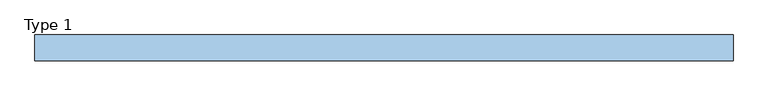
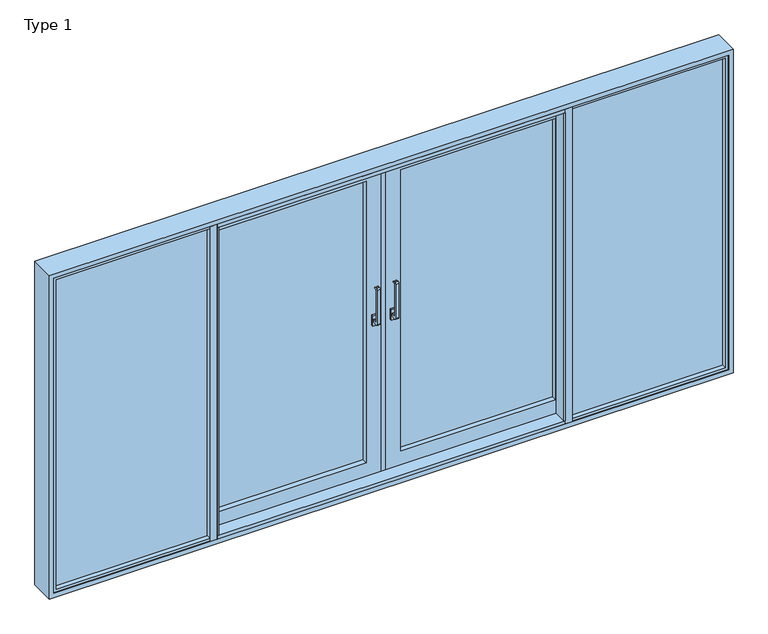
"""IFC4 building model written with IfcOpenShell, lengths in millimetres: window geometry, ETEM_ES70_Quadruple_Lift_Sliding_HT_NI : Type 1."""

from ifc_helpers import new_model, si_unit, point, frame, frame_2d, origin, place, context, project, spatial, polyline, circle_curve, trimmed, segment, composite_curve, outline, extrude, faceted_brep, source, transform, mapped, element, save


def type_1_4933372a(model_context):
    return source(origin(), model_context, "Body", "SolidModel", [
        extrude(outline(composite_curve([segment(polyline([(20.5992454, 1090.0), (-10.9744394, 1090.0)]), True, "CONTINUOUS"), segment(trimmed(circle_curve(frame_2d((-10.9744394, 1098.4263152)), 8.4263152), [point((-10.9744394, 1090.0))], [point((-19.4007546, 1098.4263152))], False, "CARTESIAN"), True, "CONTINUOUS"), segment(polyline([(-19.4007546, 1098.4263152), (-19.4007546, 1331.5736848)]), True, "CONTINUOUS"), segment(trimmed(circle_curve(frame_2d((-10.9744394, 1331.5736848)), 8.4263152), [point((-19.4007546, 1331.5736848))], [point((-10.9744394, 1340.0))], False, "CARTESIAN"), True, "CONTINUOUS"), segment(polyline([(-10.9744394, 1340.0), (0.5992454, 1340.0)]), True, "CONTINUOUS"), segment(trimmed(circle_curve(frame_2d((0.5992454, 1335.0)), 5.0), [point((0.5992454, 1340.0))], [point((0.5992454, 1330.0))], False, "CARTESIAN"), True, "CONTINUOUS"), segment(polyline([(0.5992454, 1330.0), (-5.8652207, 1330.0)]), True, "CONTINUOUS"), segment(trimmed(circle_curve(frame_2d((-5.8652207, 1326.4644661)), 3.5355339), [point((-5.8652207, 1330.0))], [point((-9.4007546, 1326.4644661))], True, "CARTESIAN"), True, "CONTINUOUS"), segment(polyline([(-9.4007546, 1326.4644661), (-9.4007546, 1113.5355339)]), True, "CONTINUOUS"), segment(trimmed(circle_curve(frame_2d((-5.8652207, 1113.5355339)), 3.5355339), [point((-9.4007546, 1113.5355339))], [point((-5.8652207, 1110.0))], True, "CARTESIAN"), True, "CONTINUOUS"), segment(polyline([(-5.8652207, 1110.0), (20.5992454, 1110.0), (20.5992454, 1090.0)]), True, "CONTINUOUS")], self_intersect=False)), frame((-69.4936823, 0.0, 0.0), z_axis=(1.0, 0.0, 0.0), x_axis=(0.0, 1.0, 0.0)), (0.0, 0.0, 1.0), 20.0),
        extrude(outline(polyline([(-74.4936823, 20.5992454), (-74.4936823, 33.5992454), (-44.4936823, 33.5992454), (-44.4936823, 20.5992454), (-74.4936823, 20.5992454)])), frame((0.0, 0.0, 1065.0), z_axis=(0.0, 0.0, 1.0), x_axis=(1.0, 0.0, 0.0)), (0.0, 0.0, 1.0), 70.0),
        extrude(outline(composite_curve([segment(polyline([(20.5992454, 1090.0), (-10.9744394, 1090.0)]), True, "CONTINUOUS"), segment(trimmed(circle_curve(frame_2d((-10.9744394, 1098.4263152)), 8.4263152), [point((-10.9744394, 1090.0))], [point((-19.4007546, 1098.4263152))], False, "CARTESIAN"), True, "CONTINUOUS"), segment(polyline([(-19.4007546, 1098.4263152), (-19.4007546, 1331.5736848)]), True, "CONTINUOUS"), segment(trimmed(circle_curve(frame_2d((-10.9744394, 1331.5736848)), 8.4263152), [point((-19.4007546, 1331.5736848))], [point((-10.9744394, 1340.0))], False, "CARTESIAN"), True, "CONTINUOUS"), segment(polyline([(-10.9744394, 1340.0), (0.5992454, 1340.0)]), True, "CONTINUOUS"), segment(trimmed(circle_curve(frame_2d((0.5992454, 1335.0)), 5.0), [point((0.5992454, 1340.0))], [point((0.5992454, 1330.0))], False, "CARTESIAN"), True, "CONTINUOUS"), segment(polyline([(0.5992454, 1330.0), (-5.8652207, 1330.0)]), True, "CONTINUOUS"), segment(trimmed(circle_curve(frame_2d((-5.8652207, 1326.4644661)), 3.5355339), [point((-5.8652207, 1330.0))], [point((-9.4007546, 1326.4644661))], True, "CARTESIAN"), True, "CONTINUOUS"), segment(polyline([(-9.4007546, 1326.4644661), (-9.4007546, 1113.5355339)]), True, "CONTINUOUS"), segment(trimmed(circle_curve(frame_2d((-5.8652207, 1113.5355339)), 3.5355339), [point((-9.4007546, 1113.5355339))], [point((-5.8652207, 1110.0))], True, "CARTESIAN"), True, "CONTINUOUS"), segment(polyline([(-5.8652207, 1110.0), (20.5992454, 1110.0), (20.5992454, 1090.0)]), True, "CONTINUOUS")], self_intersect=False)), frame((49.4931787, 0.0, 0.0), z_axis=(1.0, 0.0, 0.0), x_axis=(0.0, 1.0, 0.0)), (0.0, 0.0, 1.0), 20.0),
        extrude(outline(polyline([(74.4931787, 20.5992454), (44.4931787, 20.5992454), (44.4931787, 33.5992454), (74.4931787, 33.5992454), (74.4931787, 20.5992454)])), frame((0.0, 0.0, 1065.0), z_axis=(0.0, 0.0, 1.0), x_axis=(1.0, 0.0, 0.0)), (0.0, 0.0, 1.0), 70.0),
        faceted_brep([(2200.0, -56.4, 2200.0), (2200.0, -56.4, 0.0), (2200.0, 105.0, 0.0), (2200.0, 105.0, 2200.0), (-2200.0, -56.4, 2200.0), (-2200.0, -56.4, 0.0), (2171.3, -56.4, 28.7), (-2171.3, -56.4, 28.7), (-2171.3, -56.4, 2171.3), (2171.3, -56.4, 2171.3), (-2200.0, 105.0, 0.0), (-2200.0, 105.0, 2200.0), (2183.5, 105.0, 2183.5), (-2183.5, 105.0, 2183.5), (-2183.5, 105.0, 16.5), (2183.5, 105.0, 16.5), (2183.5, 73.1, 2183.5), (2183.5, 73.1, 16.5), (-2183.5, 73.1, 16.5), (-2183.5, 73.1, 2183.5), (2160.0, 73.1, 2160.0), (-2160.0, 73.1, 2160.0), (-2160.0, 73.1, 40.0), (2160.0, 73.1, 40.0), (2160.0, 87.1, 2160.0), (2160.0, 87.1, 40.0), (-2160.0, 87.1, 40.0), (-2160.0, 87.1, 2160.0), (2151.8, 87.1, 2151.8), (-2151.8, 87.1, 2151.8), (-2151.8, 87.1, 48.2), (2151.8, 87.1, 48.2), (2151.8, 64.1, 2151.8), (2151.8, 64.1, 48.2), (-2151.8, 64.1, 48.2), (2183.5, 64.1, 2183.5), (-2183.5, 64.1, 2183.5), (-2183.5, 64.1, 16.5), (2183.5, 64.1, 16.5), (-2151.8, 64.1, 2151.8), (2183.5, 13.6, 2183.5), (2183.5, 13.6, 16.5), (-2183.5, 13.6, 16.5), (-2183.5, 13.6, 2183.5), (2152.0, 13.6, 2152.0), (-2152.0, 13.6, 2152.0), (-2152.0, 13.6, 48.0), (2152.0, 13.6, 48.0), (2171.3, -51.4, 2171.3), (2171.3, -51.4, 28.7), (-2171.3, -51.4, 2171.3), (-2171.3, -51.4, 28.7), (2152.0, -51.4, 48.0), (-2152.0, -51.4, 48.0), (-2152.0, -51.4, 2152.0), (2152.0, -51.4, 2152.0)], [[[0, 1, 2, 3]], [[0, 4, 5, 1], [6, 7, 8, 9]], [[2, 1, 5, 10]], [[2, 10, 11, 3], [12, 13, 14, 15]], [[16, 12, 15, 17]], [[17, 15, 14, 18]], [[17, 18, 19, 16], [20, 21, 22, 23]], [[24, 20, 23, 25]], [[25, 23, 22, 26]], [[25, 26, 27, 24], [28, 29, 30, 31]], [[32, 28, 31, 33]], [[33, 31, 30, 34]], [[35, 36, 37, 38], [33, 34, 39, 32]], [[40, 35, 38, 41]], [[41, 38, 37, 42]], [[41, 42, 43, 40], [44, 45, 46, 47]], [[9, 48, 49, 6]], [[48, 50, 51, 49], [52, 53, 54, 55]], [[6, 49, 51, 7]], [[10, 5, 4, 11]], [[18, 14, 13, 19]], [[26, 22, 21, 27]], [[34, 30, 29, 39]], [[42, 37, 36, 43]], [[7, 51, 50, 8]], [[53, 46, 45, 54]], [[52, 47, 46, 53]], [[55, 44, 47, 52]], [[11, 4, 0, 3]], [[19, 13, 12, 16]], [[27, 21, 20, 24]], [[39, 29, 28, 32]], [[43, 36, 35, 40]], [[8, 50, 48, 9]], [[54, 45, 44, 55]]]),
        faceted_brep([(1110.5062173, 33.5992454, 142.0188293), (1110.5062173, 33.5992454, 39.0188293), (1110.5062173, 45.9992454, 39.0188293), (1110.5062173, 45.9992454, 70.1188293), (1110.5062173, 91.1992454, 70.1188293), (1110.5062173, 91.1992454, 39.0188293), (1110.5062173, 103.5992454, 39.0188293), (1110.5062173, 103.5992454, 142.0188293), (110.0252518, 33.5992454, 142.0188293), (110.0252518, 33.5992454, 2057.9811707), (1110.5062173, 33.5992454, 2057.9811707), (1110.5062173, 33.5992454, 2160.9811707), (7.0252518, 33.5992454, 2160.9811707), (7.0252518, 33.5992454, 39.0188293), (7.0252518, 45.9992454, 39.0188293), (7.0252518, 45.9992454, 2160.9811707), (1110.5062173, 45.9992454, 2160.9811707), (1110.5062173, 45.9992454, 2129.8811707), (38.1252518, 45.9992454, 2129.8811707), (38.1252518, 45.9992454, 70.1188293), (38.1252518, 91.1992454, 70.1188293), (38.1252518, 91.1992454, 2129.8811707), (1110.5062173, 91.1992454, 2129.8811707), (1110.5062173, 91.1992454, 2160.9811707), (7.0252518, 91.1992454, 2160.9811707), (7.0252518, 91.1992454, 39.0188293), (7.0252518, 103.5992454, 39.0188293), (7.0252518, 103.5992454, 2160.9811707), (1110.5062173, 103.5992454, 2160.9811707), (1110.5062173, 103.5992454, 2057.9811707), (110.0252518, 103.5992454, 2057.9811707), (110.0252518, 103.5992454, 142.0188293)], [[[0, 1, 2, 3, 4, 5, 6, 7]], [[1, 0, 8, 9, 10, 11, 12, 13]], [[2, 1, 13, 14]], [[3, 2, 14, 15, 16, 17, 18, 19]], [[4, 3, 19, 20]], [[5, 4, 20, 21, 22, 23, 24, 25]], [[6, 5, 25, 26]], [[7, 6, 26, 27, 28, 29, 30, 31]], [[0, 7, 31, 8]], [[8, 31, 30, 9]], [[14, 13, 12, 15]], [[20, 19, 18, 21]], [[26, 25, 24, 27]], [[10, 29, 28, 23, 22, 17, 16, 11]], [[15, 12, 11, 16]], [[21, 18, 17, 22]], [[27, 24, 23, 28]], [[9, 30, 29, 10]]]),
        extrude(outline(polyline([(1164.5062173, 21.7992454), (1154.5062173, 21.7992454), (1154.5062173, 103.5992454), (1164.5062173, 103.5992454), (1164.5062173, 21.7992454)])), frame((0.0, 0.0, 38.8188293), z_axis=(0.0, 0.0, 1.0), x_axis=(1.0, 0.0, 0.0)), (0.0, 0.0, 1.0), 2122.1623414),
        extrude(outline(polyline([(1110.5062173, 29.6), (1120.5062173, 29.6), (1120.5062173, -56.4), (1110.5062173, -56.4), (1110.5062173, 29.6)])), frame((0.0, 0.0, 52.0), z_axis=(0.0, 0.0, 1.0), x_axis=(1.0, 0.0, 0.0)), (0.0, 0.0, 1.0), 2096.0),
        extrude(outline(polyline([(109.9252518, 95.6015137), (1110.5062173, 95.6015137), (1110.5062173, 89.6015137), (109.9252518, 89.6015137), (109.9252518, 95.6015137)])), frame((0.0, 0.0, 142.0188293), z_axis=(0.0, 0.0, 1.0), x_axis=(1.0, 0.0, 0.0)), (0.0, 0.0, 1.0), 1915.9623414),
        extrude(outline(polyline([(1164.5062173, 5.6000045), (2152.0, 5.6000045), (2152.0, -0.3999955), (1164.5062173, -0.3999955), (1164.5062173, 5.6000045)])), frame((0.0, 0.0, 48.0), z_axis=(0.0, 0.0, 1.0), x_axis=(1.0, 0.0, 0.0)), (0.0, 0.0, 1.0), 2104.0),
        extrude(outline(polyline([(1120.5062173, -56.4), (1120.5062173, 13.6), (1164.5062173, 13.6), (1164.5062173, -56.4), (1120.5062173, -56.4)])), frame((0.0, 0.0, 28.7), z_axis=(0.0, 0.0, 1.0), x_axis=(1.0, 0.0, 0.0)), (0.0, 0.0, 1.0), 2142.6),
        extrude(outline(polyline([(109.9252518, 73.6015137), (1110.5062173, 73.6015137), (1110.5062173, 67.6015137), (109.9252518, 67.6015137), (109.9252518, 73.6015137)])), frame((0.0, 0.0, 142.0188293), z_axis=(0.0, 0.0, 1.0), x_axis=(1.0, 0.0, 0.0)), (0.0, 0.0, 1.0), 1915.9623414),
        extrude(outline(polyline([(1164.5062173, -16.3999955), (2152.0, -16.3999955), (2152.0, -22.3999955), (1164.5062173, -22.3999955), (1164.5062173, -16.3999955)])), frame((0.0, 0.0, 48.0), z_axis=(0.0, 0.0, 1.0), x_axis=(1.0, 0.0, 0.0)), (0.0, 0.0, 1.0), 2104.0),
        faceted_brep([(-7.0252518, 45.9992454, 2160.9811707), (-7.0252518, 33.5992454, 2160.9811707), (-7.0252518, 33.5992454, 39.0188293), (-7.0252518, 45.9992454, 39.0188293), (-1110.5062173, 33.5992454, 2160.9811707), (-1110.5062173, 33.5992454, 2057.9811707), (-110.0252518, 33.5992454, 2057.9811707), (-110.0252518, 33.5992454, 142.0188293), (-1110.5062173, 33.5992454, 142.0188293), (-1110.5062173, 33.5992454, 39.0188293), (-1110.5062173, 45.9992454, 39.0188293), (-1110.5062173, 45.9992454, 2129.8811707), (-1110.5062173, 45.9992454, 2160.9811707), (-1110.5062173, 45.9992454, 70.1188293), (-38.1252518, 45.9992454, 70.1188293), (-38.1252518, 45.9992454, 2129.8811707), (-38.1252518, 91.1992454, 2129.8811707), (-38.1252518, 91.1992454, 70.1188293), (-1110.5062173, 91.1992454, 70.1188293), (-1110.5062173, 91.1992454, 2160.9811707), (-1110.5062173, 91.1992454, 2129.8811707), (-1110.5062173, 91.1992454, 39.0188293), (-7.0252518, 91.1992454, 39.0188293), (-7.0252518, 91.1992454, 2160.9811707), (-7.0252518, 103.5992454, 2160.9811707), (-7.0252518, 103.5992454, 39.0188293), (-1110.5062173, 103.5992454, 39.0188293), (-1110.5062173, 103.5992454, 2057.9811707), (-1110.5062173, 103.5992454, 2160.9811707), (-1110.5062173, 103.5992454, 142.0188293), (-110.0252518, 103.5992454, 142.0188293), (-110.0252518, 103.5992454, 2057.9811707)], [[[0, 1, 2, 3]], [[4, 5, 6, 7, 8, 9, 2, 1]], [[3, 2, 9, 10]], [[11, 12, 0, 3, 10, 13, 14, 15]], [[16, 15, 14, 17]], [[17, 14, 13, 18]], [[19, 20, 16, 17, 18, 21, 22, 23]], [[24, 23, 22, 25]], [[25, 22, 21, 26]], [[27, 28, 24, 25, 26, 29, 30, 31]], [[6, 31, 30, 7]], [[7, 30, 29, 8]], [[12, 4, 1, 0]], [[20, 11, 15, 16]], [[28, 19, 23, 24]], [[5, 27, 31, 6]], [[8, 29, 26, 21, 18, 13, 10, 9]], [[5, 4, 12, 11, 20, 19, 28, 27]]]),
        extrude(outline(polyline([(-1110.5062173, 95.6015137), (-109.9252518, 95.6015137), (-109.9252518, 89.6015137), (-1110.5062173, 89.6015137), (-1110.5062173, 95.6015137)])), frame((0.0, 0.0, 142.0188293), z_axis=(0.0, 0.0, 1.0), x_axis=(1.0, 0.0, 0.0)), (0.0, 0.0, 1.0), 1915.9623414),
        extrude(outline(polyline([(-1110.5062173, 73.6015137), (-109.9252518, 73.6015137), (-109.9252518, 67.6015137), (-1110.5062173, 67.6015137), (-1110.5062173, 73.6015137)])), frame((0.0, 0.0, 142.0188293), z_axis=(0.0, 0.0, 1.0), x_axis=(1.0, 0.0, 0.0)), (0.0, 0.0, 1.0), 1915.9623414),
        extrude(outline(polyline([(-1120.4062173, -56.4), (-1164.5062173, -56.4), (-1164.5062173, 13.6), (-1120.4062173, 13.6), (-1120.4062173, -56.4)])), frame((0.0, 0.0, 28.7), z_axis=(0.0, 0.0, 1.0), x_axis=(1.0, 0.0, 0.0)), (0.0, 0.0, 1.0), 2142.6),
        extrude(outline(polyline([(-1110.5062173, 29.6), (-1110.5062173, -56.4), (-1120.4062173, -56.4), (-1120.4062173, 29.6), (-1110.5062173, 29.6)])), frame((0.0, 0.0, 52.0), z_axis=(0.0, 0.0, 1.0), x_axis=(1.0, 0.0, 0.0)), (0.0, 0.0, 1.0), 2096.0),
        extrude(outline(polyline([(-1164.4062173, 21.7992454), (-1164.4062173, 103.5992454), (-1154.5062173, 103.5992454), (-1154.5062173, 21.7992454), (-1164.4062173, 21.7992454)])), frame((0.0, 0.0, 39.0188293), z_axis=(0.0, 0.0, 1.0), x_axis=(1.0, 0.0, 0.0)), (0.0, 0.0, 1.0), 2121.9623414),
        extrude(outline(polyline([(-2152.0, 5.6000045), (-1164.5062173, 5.6000045), (-1164.5062173, -0.3999955), (-2152.0, -0.3999955), (-2152.0, 5.6000045)])), frame((0.0, 0.0, 48.0), z_axis=(0.0, 0.0, 1.0), x_axis=(1.0, 0.0, 0.0)), (0.0, 0.0, 1.0), 2104.0),
        extrude(outline(polyline([(-2152.0, -16.3999955), (-1164.5062173, -16.3999955), (-1164.5062173, -22.3999955), (-2152.0, -22.3999955), (-2152.0, -16.3999955)])), frame((0.0, 0.0, 48.0), z_axis=(0.0, 0.0, 1.0), x_axis=(1.0, 0.0, 0.0)), (0.0, 0.0, 1.0), 2104.0),
        extrude(outline(polyline([(7.0252518, 50.0984907), (7.0252518, 33.5992454), (12.3472419, 33.5992454), (12.3472419, 31.8014769), (-12.6492101, 31.8014769), (-12.6492101, 33.5992454), (-7.0252518, 33.5992454), (-7.0252518, 103.5992454), (-12.6492101, 103.5992454), (-12.6492101, 105.3985231), (12.3472419, 105.3985231), (12.3472419, 103.5992454), (7.0252518, 103.5992454), (7.0252518, 87.1), (16.0497482, 87.1), (16.0497482, 50.0984907), (7.0252518, 50.0984907)])), frame((0.0, 0.0, 39.0188293), z_axis=(0.0, 0.0, 1.0), x_axis=(1.0, 0.0, 0.0)), (0.0, 0.0, 1.0), 2121.9623414),
        extrude(outline(polyline([(1154.5062173, 33.6), (1110.5062173, 33.6), (1110.5062173, 103.5992454), (1154.5062173, 103.5992454), (1154.5062173, 33.6)])), frame((0.0, 0.0, 39.0188293), z_axis=(0.0, 0.0, 1.0), x_axis=(1.0, 0.0, 0.0)), (0.0, 0.0, 1.0), 2121.9623414),
        extrude(outline(polyline([(-1110.5062173, 33.6), (-1154.5062173, 33.6), (-1154.5062173, 103.5992454), (-1110.5062173, 103.5992454), (-1110.5062173, 33.6)])), frame((0.0, 0.0, 39.0188293), z_axis=(0.0, 0.0, 1.0), x_axis=(1.0, 0.0, 0.0)), (0.0, 0.0, 1.0), 2121.9623414),
        extrude(outline(polyline([(13.6, 48.0), (-51.4, 48.0), (-51.4, 28.7), (-56.4, 28.7), (-56.4, 52.0), (29.6, 52.0), (29.6, 41.879881), (13.6, 41.879881), (13.6, 48.0)])), frame((-1120.4062173, 0.0, 0.0), z_axis=(1.0, 0.0, 0.0), x_axis=(0.0, 1.0, 0.0)), (0.0, 0.0, 1.0), 2240.9124347),
        extrude(outline(polyline([(13.6, 2152.0), (13.6, 2158.120119), (29.6, 2158.120119), (29.6, 2148.0), (-56.4, 2148.0), (-56.4, 2171.3), (-51.4, 2171.3), (-51.4, 2152.0), (13.6, 2152.0)])), frame((-1120.4062173, 0.0, 0.0), z_axis=(1.0, 0.0, 0.0), x_axis=(0.0, 1.0, 0.0)), (0.0, 0.0, 1.0), 2240.9124347),
    ])


if __name__ == "__main__":
    model = new_model("IFC4")
    model_context = context("Model", 3, world=origin())
    ifc_project = project(units=[si_unit("LENGTHUNIT", "METRE", prefix="MILLI")], contexts=[model_context])
    site = spatial("IfcSite", under=ifc_project)
    building = spatial("IfcBuilding", under=site)
    placement = place(None, origin())
    type_1_shape = type_1_4933372a(model_context)
    element("IfcWindow", 1, ObjectType="ETEM_ES70_Quadruple_Lift_Sliding_HT_NI : Type 1", at=placement, inside=building, context=model_context, shape_type="MappedRepresentation", body=[
        mapped(type_1_shape, transform((0.0, 0.0, 0.0), x_axis=(1.0, 0.0, 0.0), y_axis=(0.0, 1.0, 0.0), z_axis=(0.0, 0.0, 1.0))),
    ])
    save(model, "model.ifc")
